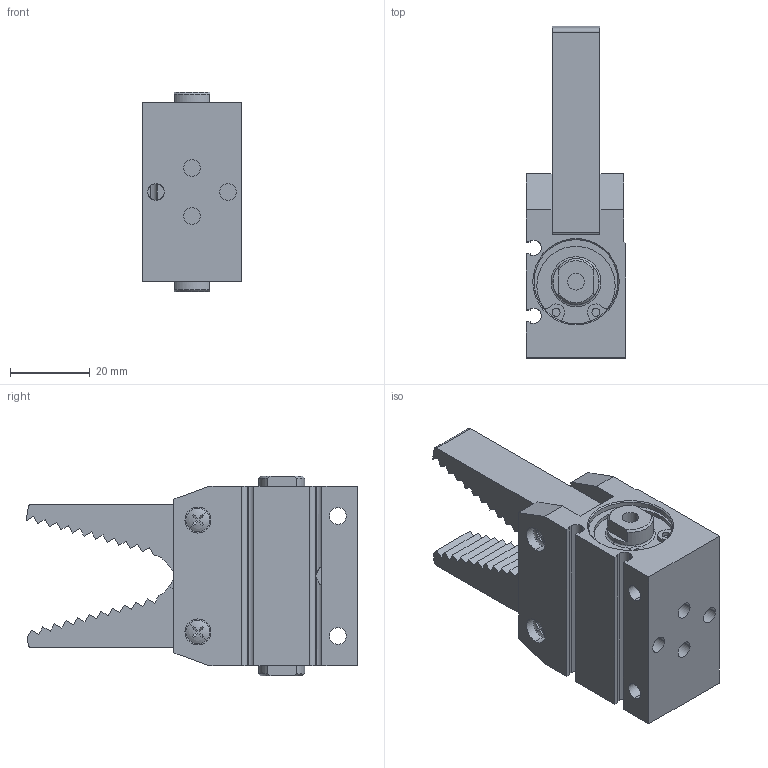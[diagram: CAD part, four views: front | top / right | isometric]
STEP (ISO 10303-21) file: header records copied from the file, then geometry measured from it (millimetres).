
FILE_DESCRIPTION(('STEP AP214'),'1');
FILE_NAME('CA.GZA.AA24.stp','2017-05-02T11:11:41',(' '),(' '),'Spatial InterOp 3D',' ',' ');
FILE_SCHEMA(('automotive_design'));
Length unit declared in the file: millimetre
Products named in the file (1): CA.GZA.AA24
Bounding box: 25 x 82.96 x 50 mm (x, y, z)
Volume: 53281.9 mm3; surface area: 15715.2 mm2
Topology: 1 solids, 2 shells, 306 faces, 811 edges, 524 vertices
Faces by surface type: plane 167, cylinder 93, cone 22, torus 20, sphere 4
Entity records: 12167 total; most frequent: CARTESIAN_POINT 1822, DIRECTION 1723, ORIENTED_EDGE 1622, EDGE_CURVE 811, AXIS2_PLACEMENT_3D 621, VERTEX_POINT 524, LINE 481, VECTOR 481
